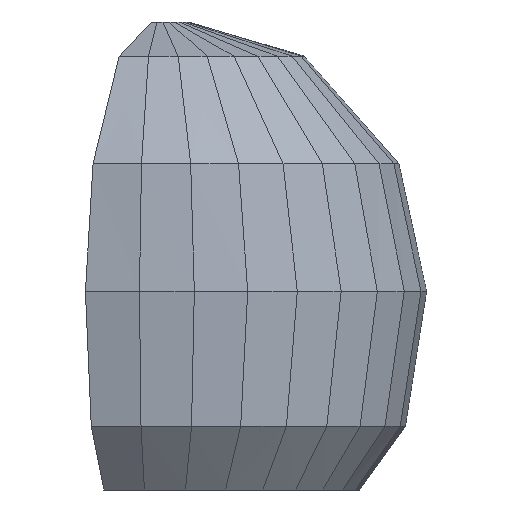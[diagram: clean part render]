
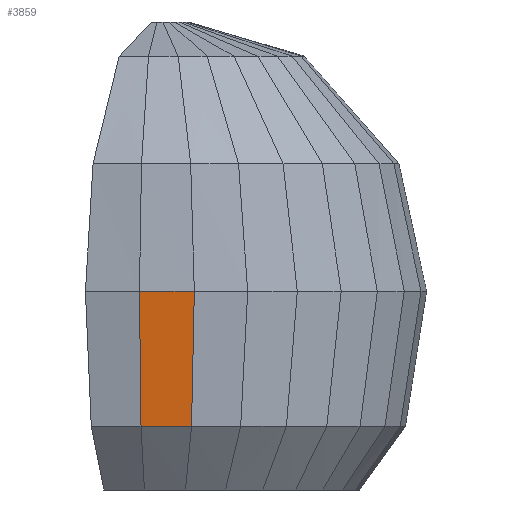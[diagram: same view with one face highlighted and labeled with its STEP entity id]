
A CAD part, left-side view. The second image highlights one B-rep face of the part: STEP entity #3859.
In plain terms, the highlighted free-form (B-spline) face has degree [1, 1] with [2, 2] control points.
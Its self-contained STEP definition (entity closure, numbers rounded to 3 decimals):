
#1252 = VERTEX_POINT('',#1253);
#1253 = CARTESIAN_POINT('',(-115.984,-19.855,8.));
#1266 = B_SPLINE_SURFACE_WITH_KNOTS('',1,1,(
    (#1267,#1268)
    ,(#1269,#1270
    )),.UNSPECIFIED.,.F.,.F.,.F.,(2,2),(2,2),(0.,30.98),(0.,1.)
  ,.PIECEWISE_BEZIER_KNOTS.);
#1267 = CARTESIAN_POINT('',(-86.245,-16.173,-31.));
#1268 = CARTESIAN_POINT('',(-115.984,-19.855,8.));
#1269 = CARTESIAN_POINT('',(-86.764,9.056,-31.));
#1270 = CARTESIAN_POINT('',(-116.682,11.117,8.));
#1292 = B_SPLINE_SURFACE_WITH_KNOTS('',1,1,(
    (#1293,#1294)
    ,(#1295,#1296
    )),.UNSPECIFIED.,.F.,.F.,.F.,(2,2),(2,2),(0.,33.278),(0.,1.
    ),.PIECEWISE_BEZIER_KNOTS.);
#1293 = CARTESIAN_POINT('',(-110.402,-49.991,8.));
#1294 = CARTESIAN_POINT('',(-118.895,-54.294,91.));
#1295 = CARTESIAN_POINT('',(-115.984,-19.855,8.));
#1296 = CARTESIAN_POINT('',(-124.906,-21.564,91.));
#1330 = VERTEX_POINT('',#1331);
#1331 = CARTESIAN_POINT('',(-116.682,11.117,8.));
#1356 = EDGE_CURVE('',#1252,#1330,#1357,.T.);
#1357 = SURFACE_CURVE('',#1358,(#1362,#1369),.PCURVE_S1.);
#1358 = LINE('',#1359,#1360);
#1359 = CARTESIAN_POINT('',(-115.984,-19.855,8.));
#1360 = VECTOR('',#1361,1.);
#1361 = DIRECTION('',(-0.023,1.,0.));
#1362 = PCURVE('',#1266,#1363);
#1363 = DEFINITIONAL_REPRESENTATION('',(#1364),#1368);
#1364 = LINE('',#1365,#1366);
#1365 = CARTESIAN_POINT('',(0.,1.));
#1366 = VECTOR('',#1367,1.);
#1367 = DIRECTION('',(1.,0.));
#1368 = ( GEOMETRIC_REPRESENTATION_CONTEXT(2) 
PARAMETRIC_REPRESENTATION_CONTEXT() REPRESENTATION_CONTEXT('2D SPACE',''
  ) );
#1369 = PCURVE('',#1370,#1375);
#1370 = B_SPLINE_SURFACE_WITH_KNOTS('',1,1,(
    (#1371,#1372)
    ,(#1373,#1374
    )),.UNSPECIFIED.,.F.,.F.,.F.,(2,2),(2,2),(0.,33.647),(0.,1.
    ),.PIECEWISE_BEZIER_KNOTS.);
#1371 = CARTESIAN_POINT('',(-115.984,-19.855,8.));
#1372 = CARTESIAN_POINT('',(-124.906,-21.564,91.));
#1373 = CARTESIAN_POINT('',(-116.682,11.117,8.));
#1374 = CARTESIAN_POINT('',(-125.658,12.075,91.));
#1375 = DEFINITIONAL_REPRESENTATION('',(#1376),#1379);
#1376 = B_SPLINE_CURVE_WITH_KNOTS('',1,(#1377,#1378),.UNSPECIFIED.,.F.,
  .F.,(2,2),(0.,30.98),.PIECEWISE_BEZIER_KNOTS.);
#1377 = CARTESIAN_POINT('',(0.,0.));
#1378 = CARTESIAN_POINT('',(33.647,0.));
#1379 = ( GEOMETRIC_REPRESENTATION_CONTEXT(2) 
PARAMETRIC_REPRESENTATION_CONTEXT() REPRESENTATION_CONTEXT('2D SPACE',''
  ) );
#1448 = B_SPLINE_SURFACE_WITH_KNOTS('',1,1,(
    (#1449,#1450)
    ,(#1451,#1452
    )),.UNSPECIFIED.,.F.,.F.,.F.,(2,2),(2,2),(0.,33.44),(0.,1.
    ),.PIECEWISE_BEZIER_KNOTS.);
#1449 = CARTESIAN_POINT('',(-116.682,11.117,8.));
#1450 = CARTESIAN_POINT('',(-125.658,12.075,91.));
#1451 = CARTESIAN_POINT('',(-112.468,41.621,8.));
#1452 = CARTESIAN_POINT('',(-121.119,45.205,91.));
#3811 = EDGE_CURVE('',#1252,#3812,#3814,.T.);
#3812 = VERTEX_POINT('',#3813);
#3813 = CARTESIAN_POINT('',(-124.906,-21.564,91.));
#3814 = SURFACE_CURVE('',#3815,(#3818,#3825),.PCURVE_S1.);
#3815 = B_SPLINE_CURVE_WITH_KNOTS('',1,(#3816,#3817),.UNSPECIFIED.,.F.,
  .F.,(2,2),(0.,1.),.PIECEWISE_BEZIER_KNOTS.);
#3816 = CARTESIAN_POINT('',(-115.984,-19.855,8.));
#3817 = CARTESIAN_POINT('',(-124.906,-21.564,91.));
#3818 = PCURVE('',#1292,#3819);
#3819 = DEFINITIONAL_REPRESENTATION('',(#3820),#3824);
#3820 = LINE('',#3821,#3822);
#3821 = CARTESIAN_POINT('',(33.278,0.));
#3822 = VECTOR('',#3823,1.);
#3823 = DIRECTION('',(0.,1.));
#3824 = ( GEOMETRIC_REPRESENTATION_CONTEXT(2) 
PARAMETRIC_REPRESENTATION_CONTEXT() REPRESENTATION_CONTEXT('2D SPACE',''
  ) );
#3825 = PCURVE('',#1370,#3826);
#3826 = DEFINITIONAL_REPRESENTATION('',(#3827),#3831);
#3827 = LINE('',#3828,#3829);
#3828 = CARTESIAN_POINT('',(0.,0.));
#3829 = VECTOR('',#3830,1.);
#3830 = DIRECTION('',(0.,1.));
#3831 = ( GEOMETRIC_REPRESENTATION_CONTEXT(2) 
PARAMETRIC_REPRESENTATION_CONTEXT() REPRESENTATION_CONTEXT('2D SPACE',''
  ) );
#3859 = ADVANCED_FACE('',(#3860),#1370,.F.);
#3860 = FACE_BOUND('',#3861,.F.);
#3861 = EDGE_LOOP('',(#3862,#3863,#3885,#3911));
#3862 = ORIENTED_EDGE('',*,*,#1356,.T.);
#3863 = ORIENTED_EDGE('',*,*,#3864,.T.);
#3864 = EDGE_CURVE('',#1330,#3865,#3867,.T.);
#3865 = VERTEX_POINT('',#3866);
#3866 = CARTESIAN_POINT('',(-125.658,12.075,91.));
#3867 = SURFACE_CURVE('',#3868,(#3871,#3878),.PCURVE_S1.);
#3868 = B_SPLINE_CURVE_WITH_KNOTS('',1,(#3869,#3870),.UNSPECIFIED.,.F.,
  .F.,(2,2),(0.,1.),.PIECEWISE_BEZIER_KNOTS.);
#3869 = CARTESIAN_POINT('',(-116.682,11.117,8.));
#3870 = CARTESIAN_POINT('',(-125.658,12.075,91.));
#3871 = PCURVE('',#1370,#3872);
#3872 = DEFINITIONAL_REPRESENTATION('',(#3873),#3877);
#3873 = LINE('',#3874,#3875);
#3874 = CARTESIAN_POINT('',(33.647,0.));
#3875 = VECTOR('',#3876,1.);
#3876 = DIRECTION('',(0.,1.));
#3877 = ( GEOMETRIC_REPRESENTATION_CONTEXT(2) 
PARAMETRIC_REPRESENTATION_CONTEXT() REPRESENTATION_CONTEXT('2D SPACE',''
  ) );
#3878 = PCURVE('',#1448,#3879);
#3879 = DEFINITIONAL_REPRESENTATION('',(#3880),#3884);
#3880 = LINE('',#3881,#3882);
#3881 = CARTESIAN_POINT('',(0.,0.));
#3882 = VECTOR('',#3883,1.);
#3883 = DIRECTION('',(0.,1.));
#3884 = ( GEOMETRIC_REPRESENTATION_CONTEXT(2) 
PARAMETRIC_REPRESENTATION_CONTEXT() REPRESENTATION_CONTEXT('2D SPACE',''
  ) );
#3885 = ORIENTED_EDGE('',*,*,#3886,.F.);
#3886 = EDGE_CURVE('',#3812,#3865,#3887,.T.);
#3887 = SURFACE_CURVE('',#3888,(#3892,#3899),.PCURVE_S1.);
#3888 = LINE('',#3889,#3890);
#3889 = CARTESIAN_POINT('',(-124.906,-21.564,91.));
#3890 = VECTOR('',#3891,1.);
#3891 = DIRECTION('',(-0.022,1.,0.));
#3892 = PCURVE('',#1370,#3893);
#3893 = DEFINITIONAL_REPRESENTATION('',(#3894),#3898);
#3894 = LINE('',#3895,#3896);
#3895 = CARTESIAN_POINT('',(0.,1.));
#3896 = VECTOR('',#3897,1.);
#3897 = DIRECTION('',(1.,0.));
#3898 = ( GEOMETRIC_REPRESENTATION_CONTEXT(2) 
PARAMETRIC_REPRESENTATION_CONTEXT() REPRESENTATION_CONTEXT('2D SPACE',''
  ) );
#3899 = PCURVE('',#3900,#3905);
#3900 = B_SPLINE_SURFACE_WITH_KNOTS('',1,1,(
    (#3901,#3902)
    ,(#3903,#3904
    )),.UNSPECIFIED.,.F.,.F.,.F.,(2,2),(2,2),(0.,33.647),(0.,1.
    ),.PIECEWISE_BEZIER_KNOTS.);
#3901 = CARTESIAN_POINT('',(-124.906,-21.564,91.));
#3902 = CARTESIAN_POINT('',(-119.949,-19.329,169.));
#3903 = CARTESIAN_POINT('',(-125.658,12.075,91.));
#3904 = CARTESIAN_POINT('',(-120.672,10.823,169.));
#3905 = DEFINITIONAL_REPRESENTATION('',(#3906),#3910);
#3906 = LINE('',#3907,#3908);
#3907 = CARTESIAN_POINT('',(0.,0.));
#3908 = VECTOR('',#3909,1.);
#3909 = DIRECTION('',(1.,0.));
#3910 = ( GEOMETRIC_REPRESENTATION_CONTEXT(2) 
PARAMETRIC_REPRESENTATION_CONTEXT() REPRESENTATION_CONTEXT('2D SPACE',''
  ) );
#3911 = ORIENTED_EDGE('',*,*,#3811,.F.);
